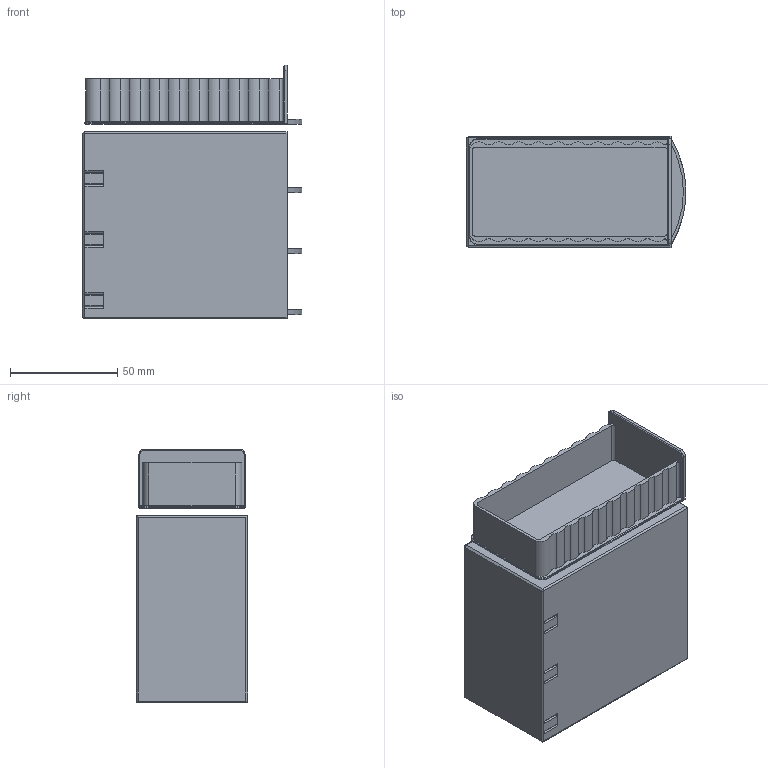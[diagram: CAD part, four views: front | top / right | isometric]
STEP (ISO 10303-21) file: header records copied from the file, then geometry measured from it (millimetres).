
FILE_DESCRIPTION(/* description */ (''),/* implementation_level */ '2;1');
FILE_NAME(/* name */ 'Hex bit storage.step',/* time_stamp */ '2022-12-03T18:46:23+02:00',/* author */ (''),/* organization */ (''),/* preprocessor_version */ 'ST-DEVELOPER v19.2',/* originating_system */ 'Autodesk Translation Framework v11.17.0.187',/* authorisation */ '');
FILE_SCHEMA (('AUTOMOTIVE_DESIGN { 1 0 10303 214 3 1 1 }'));
Length unit declared in the file: millimetre
Products named in the file (6): Hex bit storage; Tray 50 bits 1; Tray 50 bits 2; Tray misc bits; Bit storage shell; Tray empty
Assembly tree (5 placements, depth 2):
  Hex bit storage
    Tray 50 bits 1
    Tray 50 bits 2
    Tray misc bits
    Bit storage shell
    Tray empty
Bounding box: 102.36 x 51.9 x 118.26 mm (x, y, z)
Volume: 152359.7 mm3; surface area: 190667.2 mm2
Topology: 5 solids, 5 shells, 1631 faces, 4229 edges, 2773 vertices
Faces by surface type: plane 1027, cylinder 564, cone 28, torus 12
Entity records: 50050 total; most frequent: CARTESIAN_POINT 8801, DIRECTION 8675, ORIENTED_EDGE 8450, EDGE_CURVE 4225, LINE 3033, VECTOR 3033, AXIS2_PLACEMENT_3D 2821, VERTEX_POINT 2773
